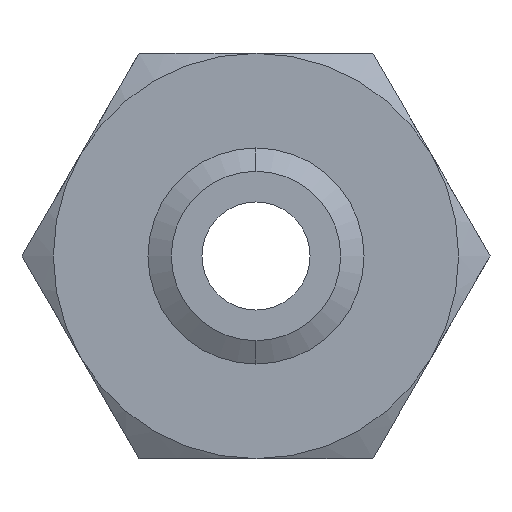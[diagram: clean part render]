
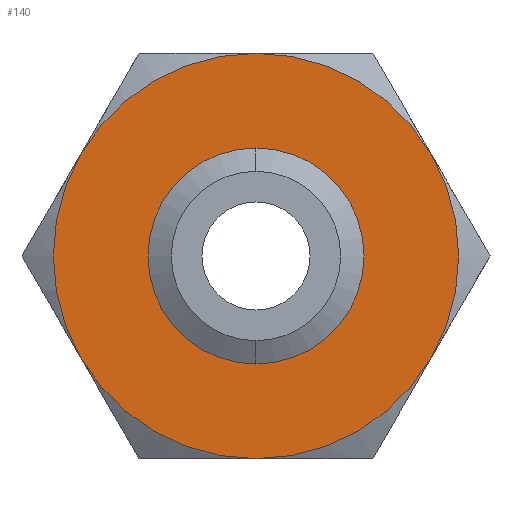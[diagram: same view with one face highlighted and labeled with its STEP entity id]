
A CAD part, front view. The second image highlights one B-rep face of the part: STEP entity #140.
In plain terms, the highlighted planar face has unit normal (0, -1, 0).
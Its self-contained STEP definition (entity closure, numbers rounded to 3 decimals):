
#127 = ORIENTED_EDGE ( 'NONE', *, *, #136, .F. ) ;
#128 = EDGE_CURVE ( 'NONE', #134, #137, #793, .T. ) ;
#131 = ORIENTED_EDGE ( 'NONE', *, *, #128, .F. ) ;
#133 = VERTEX_POINT ( 'NONE', #787 ) ;
#134 = VERTEX_POINT ( 'NONE', #786 ) ;
#136 = EDGE_CURVE ( 'NONE', #133, #134, #849, .T. ) ;
#137 = VERTEX_POINT ( 'NONE', #844 ) ;
#139 = EDGE_LOOP ( 'NONE', ( #131, #127, #171, #175, #176, #165 ) ) ;
#140 = ADVANCED_FACE ( 'NONE', ( #839, #838 ), #837, .F. ) ;
#161 = VERTEX_POINT ( 'NONE', #869 ) ;
#162 = EDGE_CURVE ( 'NONE', #137, #161, #863, .T. ) ;
#165 = ORIENTED_EDGE ( 'NONE', *, *, #162, .F. ) ;
#168 = EDGE_CURVE ( 'NONE', #172, #133, #854, .T. ) ;
#169 = EDGE_CURVE ( 'NONE', #174, #172, #909, .T. ) ;
#171 = ORIENTED_EDGE ( 'NONE', *, *, #168, .F. ) ;
#172 = VERTEX_POINT ( 'NONE', #904 ) ;
#173 = EDGE_CURVE ( 'NONE', #161, #174, #903, .T. ) ;
#174 = VERTEX_POINT ( 'NONE', #898 ) ;
#175 = ORIENTED_EDGE ( 'NONE', *, *, #169, .F. ) ;
#176 = ORIENTED_EDGE ( 'NONE', *, *, #173, .F. ) ;
#399 = EDGE_CURVE ( 'NONE', #400, #401, #1263, .T. ) ;
#400 = VERTEX_POINT ( 'NONE', #1253 ) ;
#401 = VERTEX_POINT ( 'NONE', #1252 ) ;
#786 = CARTESIAN_POINT ( 'NONE',  ( 0., 0., 37.5 ) ) ;
#787 = CARTESIAN_POINT ( 'NONE',  ( -32.476, 0., 18.75 ) ) ;
#789 = DIRECTION ( 'NONE',  ( 0., 0., 1. ) ) ;
#790 = DIRECTION ( 'NONE',  ( 0., 1., 0. ) ) ;
#791 = CARTESIAN_POINT ( 'NONE',  ( 0., 0., 0. ) ) ;
#792 = AXIS2_PLACEMENT_3D ( 'NONE', #791, #790, #789 ) ;
#793 = CIRCLE ( 'NONE', #792, 37.5 ) ;
#833 = DIRECTION ( 'NONE',  ( 0., 0., 1. ) ) ;
#834 = DIRECTION ( 'NONE',  ( 0., 1., 0. ) ) ;
#835 = CARTESIAN_POINT ( 'NONE',  ( 21.651, 0., -37.5 ) ) ;
#836 = AXIS2_PLACEMENT_3D ( 'NONE', #835, #834, #833 ) ;
#837 = PLANE ( 'NONE',  #836 ) ;
#838 = FACE_BOUND ( 'NONE', #1890, .T. ) ;
#839 = FACE_OUTER_BOUND ( 'NONE', #139, .T. ) ;
#844 = CARTESIAN_POINT ( 'NONE',  ( 32.476, 0., 18.75 ) ) ;
#845 = DIRECTION ( 'NONE',  ( 0., 0., 1. ) ) ;
#846 = DIRECTION ( 'NONE',  ( 0., 1., 0. ) ) ;
#847 = CARTESIAN_POINT ( 'NONE',  ( 0., 0., 0. ) ) ;
#848 = AXIS2_PLACEMENT_3D ( 'NONE', #847, #846, #845 ) ;
#849 = CIRCLE ( 'NONE', #848, 37.5 ) ;
#850 = DIRECTION ( 'NONE',  ( 0., 0., 1. ) ) ;
#851 = DIRECTION ( 'NONE',  ( 0., 1., 0. ) ) ;
#852 = CARTESIAN_POINT ( 'NONE',  ( 0., 0., 0. ) ) ;
#853 = AXIS2_PLACEMENT_3D ( 'NONE', #852, #851, #850 ) ;
#854 = CIRCLE ( 'NONE', #853, 37.5 ) ;
#859 = DIRECTION ( 'NONE',  ( 0., 0., 1. ) ) ;
#860 = DIRECTION ( 'NONE',  ( 0., 1., 0. ) ) ;
#861 = CARTESIAN_POINT ( 'NONE',  ( 0., 0., 0. ) ) ;
#862 = AXIS2_PLACEMENT_3D ( 'NONE', #861, #860, #859 ) ;
#863 = CIRCLE ( 'NONE', #862, 37.5 ) ;
#869 = CARTESIAN_POINT ( 'NONE',  ( 32.476, 0., -18.75 ) ) ;
#898 = CARTESIAN_POINT ( 'NONE',  ( 0., 0., -37.5 ) ) ;
#899 = DIRECTION ( 'NONE',  ( 0., 0., 1. ) ) ;
#900 = DIRECTION ( 'NONE',  ( 0., 1., 0. ) ) ;
#901 = CARTESIAN_POINT ( 'NONE',  ( 0., 0., 0. ) ) ;
#902 = AXIS2_PLACEMENT_3D ( 'NONE', #901, #900, #899 ) ;
#903 = CIRCLE ( 'NONE', #902, 37.5 ) ;
#904 = CARTESIAN_POINT ( 'NONE',  ( -32.476, 0., -18.75 ) ) ;
#905 = DIRECTION ( 'NONE',  ( 0., 0., 1. ) ) ;
#906 = DIRECTION ( 'NONE',  ( 0., 1., 0. ) ) ;
#907 = CARTESIAN_POINT ( 'NONE',  ( 0., 0., 0. ) ) ;
#908 = AXIS2_PLACEMENT_3D ( 'NONE', #907, #906, #905 ) ;
#909 = CIRCLE ( 'NONE', #908, 37.5 ) ;
#1252 = CARTESIAN_POINT ( 'NONE',  ( 0., 0., 15.67 ) ) ;
#1253 = CARTESIAN_POINT ( 'NONE',  ( 0., 0., -15.67 ) ) ;
#1254 = DIRECTION ( 'NONE',  ( 0., 0., -1. ) ) ;
#1255 = DIRECTION ( 'NONE',  ( 0., -1., 0. ) ) ;
#1256 = CARTESIAN_POINT ( 'NONE',  ( 0., 0., 0. ) ) ;
#1257 = AXIS2_PLACEMENT_3D ( 'NONE', #1256, #1255, #1254 ) ;
#1263 = CIRCLE ( 'NONE', #1257, 15.67 ) ;
#1524 = DIRECTION ( 'NONE',  ( 0., 0., -1. ) ) ;
#1525 = DIRECTION ( 'NONE',  ( 0., -1., 0. ) ) ;
#1526 = CARTESIAN_POINT ( 'NONE',  ( 0., 0., 0. ) ) ;
#1527 = AXIS2_PLACEMENT_3D ( 'NONE', #1526, #1525, #1524 ) ;
#1528 = CIRCLE ( 'NONE', #1527, 15.67 ) ;
#1890 = EDGE_LOOP ( 'NONE', ( #1892, #1891 ) ) ;
#1891 = ORIENTED_EDGE ( 'NONE', *, *, #1893, .F. ) ;
#1892 = ORIENTED_EDGE ( 'NONE', *, *, #399, .F. ) ;
#1893 = EDGE_CURVE ( 'NONE', #401, #400, #1528, .T. ) ;
